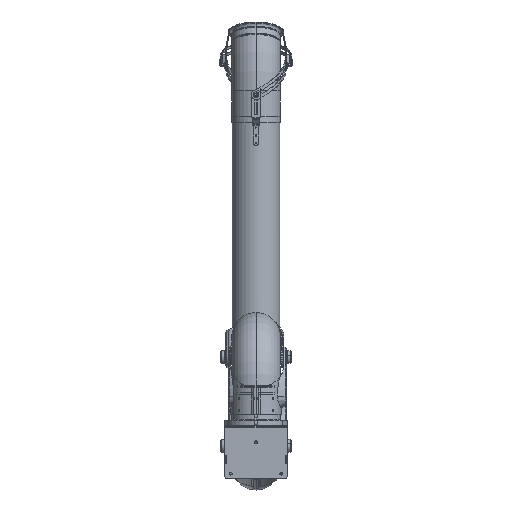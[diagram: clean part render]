
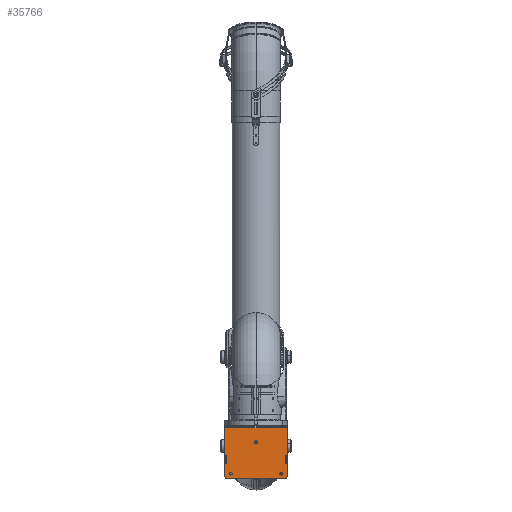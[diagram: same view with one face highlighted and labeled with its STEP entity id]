
A CAD part, front view. The second image highlights one B-rep face of the part: STEP entity #35766.
In plain terms, the highlighted planar face has unit normal (0, -1, 0).
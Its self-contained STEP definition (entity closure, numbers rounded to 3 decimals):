
#34907=CARTESIAN_POINT('',(-105.,0.,-198.));
#34908=DIRECTION('',(0.,1.,0.));
#34909=DIRECTION('',(-1.,0.,0.));
#34910=AXIS2_PLACEMENT_3D('',#34907,#34908,#34909);
#34912=CARTESIAN_POINT('',(-105.,0.,-198.));
#34913=DIRECTION('',(0.,1.,0.));
#34914=DIRECTION('',(1.,0.,0.));
#34915=AXIS2_PLACEMENT_3D('',#34912,#34913,#34914);
#34917=CARTESIAN_POINT('',(105.,0.,-198.));
#34918=DIRECTION('',(0.,1.,0.));
#34919=DIRECTION('',(-1.,0.,0.));
#34920=AXIS2_PLACEMENT_3D('',#34917,#34918,#34919);
#34922=CARTESIAN_POINT('',(105.,0.,-198.));
#34923=DIRECTION('',(0.,1.,0.));
#34924=DIRECTION('',(1.,0.,0.));
#34925=AXIS2_PLACEMENT_3D('',#34922,#34923,#34924);
#34927=CARTESIAN_POINT('',(0.,0.,-68.));
#34928=DIRECTION('',(0.,1.,0.));
#34929=DIRECTION('',(-1.,0.,0.));
#34930=AXIS2_PLACEMENT_3D('',#34927,#34928,#34929);
#34932=CARTESIAN_POINT('',(0.,0.,-68.));
#34933=DIRECTION('',(0.,1.,0.));
#34934=DIRECTION('',(1.,0.,0.));
#34935=AXIS2_PLACEMENT_3D('',#34932,#34933,#34934);
#34937=CARTESIAN_POINT('',(115.,0.,-205.));
#34938=DIRECTION('',(0.,-1.,0.));
#34939=DIRECTION('',(0.,0.,-1.));
#34940=AXIS2_PLACEMENT_3D('',#34937,#34938,#34939);
#34942=CARTESIAN_POINT('',(-115.,0.,-205.));
#34943=DIRECTION('',(0.,-1.,0.));
#34944=DIRECTION('',(-1.,0.,0.));
#34945=AXIS2_PLACEMENT_3D('',#34942,#34943,#34944);
#34947=DIRECTION('',(0.,0.,-1.));
#34948=VECTOR('',#34947,197.);
#34949=CARTESIAN_POINT('',(-130.,0.,-8.));
#34950=LINE('',#34949,#34948);
#34951=DIRECTION('',(0.,0.,-1.));
#34952=VECTOR('',#34951,197.);
#34953=CARTESIAN_POINT('',(130.,0.,-8.));
#34954=LINE('',#34953,#34952);
#34955=DIRECTION('',(-1.,0.,0.));
#34956=VECTOR('',#34955,4.2);
#34957=CARTESIAN_POINT('',(125.1,0.,-154.));
#34958=LINE('',#34957,#34956);
#34959=DIRECTION('',(0.,0.,-1.));
#34960=VECTOR('',#34959,28.);
#34961=CARTESIAN_POINT('',(125.1,0.,-126.));
#34962=LINE('',#34961,#34960);
#34963=DIRECTION('',(1.,0.,0.));
#34964=VECTOR('',#34963,4.2);
#34965=CARTESIAN_POINT('',(120.9,0.,-126.));
#34966=LINE('',#34965,#34964);
#34967=DIRECTION('',(0.,0.,1.));
#34968=VECTOR('',#34967,28.);
#34969=CARTESIAN_POINT('',(120.9,0.,-154.));
#34970=LINE('',#34969,#34968);
#34971=DIRECTION('',(1.,0.,0.));
#34972=VECTOR('',#34971,4.2);
#34973=CARTESIAN_POINT('',(-125.1,0.,-154.));
#34974=LINE('',#34973,#34972);
#34975=DIRECTION('',(0.,0.,1.));
#34976=VECTOR('',#34975,28.);
#34977=CARTESIAN_POINT('',(-120.9,0.,-154.));
#34978=LINE('',#34977,#34976);
#34979=DIRECTION('',(-1.,0.,0.));
#34980=VECTOR('',#34979,4.2);
#34981=CARTESIAN_POINT('',(-120.9,0.,-126.));
#34982=LINE('',#34981,#34980);
#34983=DIRECTION('',(0.,0.,-1.));
#34984=VECTOR('',#34983,28.);
#34985=CARTESIAN_POINT('',(-125.1,0.,-126.));
#34986=LINE('',#34985,#34984);
#35117=DIRECTION('',(1.,0.,0.));
#35118=VECTOR('',#35117,260.);
#35119=CARTESIAN_POINT('',(-130.,0.,-8.));
#35120=LINE('',#35119,#35118);
#35141=DIRECTION('',(1.,0.,0.));
#35142=VECTOR('',#35141,230.);
#35143=CARTESIAN_POINT('',(-115.,0.,-220.));
#35144=LINE('',#35143,#35142);
#35541=CARTESIAN_POINT('',(-130.,0.,-8.));
#35542=VERTEX_POINT('',#35541);
#35543=CARTESIAN_POINT('',(130.,0.,-8.));
#35544=VERTEX_POINT('',#35543);
#35557=CARTESIAN_POINT('',(-111.,0.,-198.));
#35558=CARTESIAN_POINT('',(-99.,0.,-198.));
#35559=VERTEX_POINT('',#35557);
#35560=VERTEX_POINT('',#35558);
#35561=CARTESIAN_POINT('',(99.,0.,-198.));
#35562=CARTESIAN_POINT('',(111.,0.,-198.));
#35563=VERTEX_POINT('',#35561);
#35564=VERTEX_POINT('',#35562);
#35565=CARTESIAN_POINT('',(-6.,0.,-68.));
#35566=CARTESIAN_POINT('',(6.,0.,-68.));
#35567=VERTEX_POINT('',#35565);
#35568=VERTEX_POINT('',#35566);
#35629=CARTESIAN_POINT('',(115.,0.,-220.));
#35630=CARTESIAN_POINT('',(130.,0.,-205.));
#35631=VERTEX_POINT('',#35629);
#35632=VERTEX_POINT('',#35630);
#35637=CARTESIAN_POINT('',(-130.,0.,-205.));
#35638=CARTESIAN_POINT('',(-115.,0.,-220.));
#35639=VERTEX_POINT('',#35637);
#35640=VERTEX_POINT('',#35638);
#35645=CARTESIAN_POINT('',(125.1,0.,-154.));
#35646=CARTESIAN_POINT('',(120.9,0.,-154.));
#35647=VERTEX_POINT('',#35645);
#35648=VERTEX_POINT('',#35646);
#35649=CARTESIAN_POINT('',(120.9,0.,-126.));
#35650=VERTEX_POINT('',#35649);
#35651=CARTESIAN_POINT('',(125.1,0.,-126.));
#35652=VERTEX_POINT('',#35651);
#35661=CARTESIAN_POINT('',(-125.1,0.,-154.));
#35662=CARTESIAN_POINT('',(-120.9,0.,-154.));
#35663=VERTEX_POINT('',#35661);
#35664=VERTEX_POINT('',#35662);
#35665=CARTESIAN_POINT('',(-120.9,0.,-126.));
#35666=VERTEX_POINT('',#35665);
#35667=CARTESIAN_POINT('',(-125.1,0.,-126.));
#35668=VERTEX_POINT('',#35667);
#35709=CARTESIAN_POINT('',(-175.,0.,0.));
#35710=DIRECTION('',(0.,-1.,0.));
#35711=DIRECTION('',(0.,0.,-1.));
#35712=AXIS2_PLACEMENT_3D('',#35709,#35710,#35711);
#35713=PLANE('',#35712);
#35715=ORIENTED_EDGE('',*,*,#35714,.F.);
#35717=ORIENTED_EDGE('',*,*,#35716,.F.);
#35719=ORIENTED_EDGE('',*,*,#35718,.F.);
#35721=ORIENTED_EDGE('',*,*,#35720,.F.);
#35723=ORIENTED_EDGE('',*,*,#35722,.T.);
#35725=ORIENTED_EDGE('',*,*,#35724,.T.);
#35726=EDGE_LOOP('',(#35715,#35717,#35719,#35721,#35723,#35725));
#35727=FACE_OUTER_BOUND('',#35726,.F.);
#35729=ORIENTED_EDGE('',*,*,#35728,.F.);
#35731=ORIENTED_EDGE('',*,*,#35730,.F.);
#35732=EDGE_LOOP('',(#35729,#35731));
#35733=FACE_BOUND('',#35732,.F.);
#35735=ORIENTED_EDGE('',*,*,#35734,.F.);
#35737=ORIENTED_EDGE('',*,*,#35736,.F.);
#35738=EDGE_LOOP('',(#35735,#35737));
#35739=FACE_BOUND('',#35738,.F.);
#35741=ORIENTED_EDGE('',*,*,#35740,.F.);
#35743=ORIENTED_EDGE('',*,*,#35742,.F.);
#35744=EDGE_LOOP('',(#35741,#35743));
#35745=FACE_BOUND('',#35744,.F.);
#35747=ORIENTED_EDGE('',*,*,#35746,.F.);
#35749=ORIENTED_EDGE('',*,*,#35748,.F.);
#35751=ORIENTED_EDGE('',*,*,#35750,.F.);
#35753=ORIENTED_EDGE('',*,*,#35752,.F.);
#35754=EDGE_LOOP('',(#35747,#35749,#35751,#35753));
#35755=FACE_BOUND('',#35754,.F.);
#35757=ORIENTED_EDGE('',*,*,#35756,.T.);
#35759=ORIENTED_EDGE('',*,*,#35758,.T.);
#35761=ORIENTED_EDGE('',*,*,#35760,.T.);
#35763=ORIENTED_EDGE('',*,*,#35762,.T.);
#35764=EDGE_LOOP('',(#35757,#35759,#35761,#35763));
#35765=FACE_BOUND('',#35764,.F.);
#34911=CIRCLE('',#34910,6.);
#34916=CIRCLE('',#34915,6.);
#34921=CIRCLE('',#34920,6.);
#34926=CIRCLE('',#34925,6.);
#34931=CIRCLE('',#34930,6.);
#34936=CIRCLE('',#34935,6.);
#34941=CIRCLE('',#34940,15.);
#34946=CIRCLE('',#34945,15.);
#35714=EDGE_CURVE('',#35631,#35632,#34941,.T.);
#35716=EDGE_CURVE('',#35640,#35631,#35144,.T.);
#35718=EDGE_CURVE('',#35639,#35640,#34946,.T.);
#35720=EDGE_CURVE('',#35542,#35639,#34950,.T.);
#35722=EDGE_CURVE('',#35542,#35544,#35120,.T.);
#35724=EDGE_CURVE('',#35544,#35632,#34954,.T.);
#35728=EDGE_CURVE('',#35563,#35564,#34921,.T.);
#35730=EDGE_CURVE('',#35564,#35563,#34926,.T.);
#35734=EDGE_CURVE('',#35567,#35568,#34931,.T.);
#35736=EDGE_CURVE('',#35568,#35567,#34936,.T.);
#35740=EDGE_CURVE('',#35559,#35560,#34911,.T.);
#35742=EDGE_CURVE('',#35560,#35559,#34916,.T.);
#35746=EDGE_CURVE('',#35647,#35648,#34958,.T.);
#35748=EDGE_CURVE('',#35652,#35647,#34962,.T.);
#35750=EDGE_CURVE('',#35650,#35652,#34966,.T.);
#35752=EDGE_CURVE('',#35648,#35650,#34970,.T.);
#35756=EDGE_CURVE('',#35663,#35664,#34974,.T.);
#35758=EDGE_CURVE('',#35664,#35666,#34978,.T.);
#35760=EDGE_CURVE('',#35666,#35668,#34982,.T.);
#35762=EDGE_CURVE('',#35668,#35663,#34986,.T.);
#35766=ADVANCED_FACE('',(#35727,#35733,#35739,#35745,#35755,#35765),#35713,.T.);
